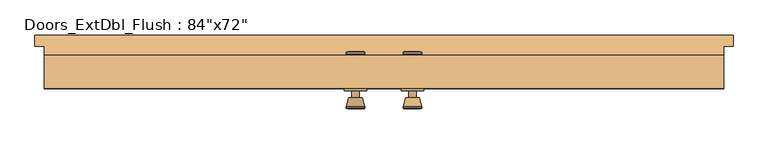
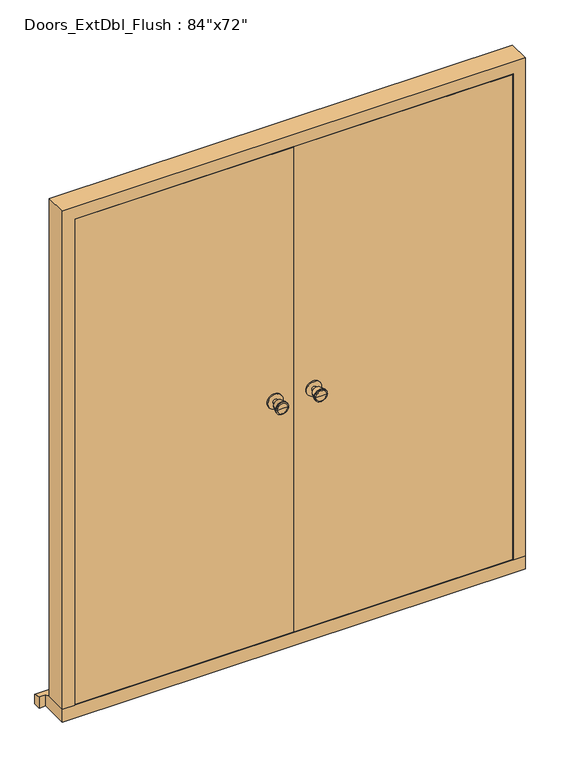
"""IFC4 building model written with IfcOpenShell, lengths in millimetres: door geometry."""

from ifc_helpers import new_model, si_unit, point, frame, frame_2d, origin, place, context, project, spatial, polyline, circle_curve, trimmed, segment, composite_curve, outline, extrude, faceted_brep, source, transform, mapped, element, save
from ifc_brep_helpers import plane_surface, cylinder_surface, revolved_surface, advanced_brep


def door_d81dae2e(model_context):
    return source(origin(), model_context, "Body", "SolidModel", [
        advanced_brep(
        [(-76.5, 5.0, 1050.0), (-66.5, 5.0, 1050.0), (-86.5, 5.0, 1050.0), (-96.9758676, -44.0, 1050.0), (-56.0241324, -44.0, 1050.0), (-76.5, -44.0, 1050.0), (-101.5, -42.1721319, 1050.0), (-51.5, -42.1721319, 1050.0), (-101.5, -38.7084537, 1050.0), (-51.5, -38.7084537, 1050.0), (-95.136236, -14.0, 1050.0), (-57.863764, -14.0, 1050.0), (-86.5, -14.0, 1050.0), (-66.5, -14.0, 1050.0)],
        [
            (0, 1),
            (1, 2, circle_curve(frame((-76.5, 5.0, 1050.0), z_axis=(0.0, 1.0, 0.0), x_axis=(1.0, 0.0, 0.0)), 10.0)),
            (2, 0),
            (2, 1, circle_curve(frame((-76.5, 5.0, 1050.0), z_axis=(0.0, 1.0, 0.0), x_axis=(1.0, 0.0, 0.0)), 10.0)),
            (3, 4, circle_curve(frame((-76.5, -44.0, 1050.0), z_axis=(0.0, -1.0, 0.0), x_axis=(1.0, 0.0, 0.0)), 20.4758676)),
            (4, 5),
            (5, 3),
            (4, 3, circle_curve(frame((-76.5, -44.0, 1050.0), z_axis=(0.0, -1.0, 0.0), x_axis=(1.0, 0.0, 0.0)), 20.4758676)),
            (6, 7, circle_curve(frame((-76.5, -42.1721319, 1050.0), z_axis=(0.0, -1.0, 0.0), x_axis=(1.0, 0.0, 0.0)), 25.0)),
            (7, 4),
            (3, 6),
            (7, 6, circle_curve(frame((-76.5, -42.1721319, 1050.0), z_axis=(0.0, -1.0, 0.0), x_axis=(1.0, 0.0, 0.0)), 25.0)),
            (8, 9, circle_curve(frame((-76.5, -38.7084537, 1050.0), z_axis=(0.0, -1.0, 0.0), x_axis=(1.0, 0.0, 0.0)), 25.0)),
            (9, 7),
            (6, 8),
            (9, 8, circle_curve(frame((-76.5, -38.7084537, 1050.0), z_axis=(0.0, -1.0, 0.0), x_axis=(1.0, 0.0, 0.0)), 25.0)),
            (10, 11, circle_curve(frame((-76.5, -14.0, 1050.0), z_axis=(0.0, -1.0, 0.0), x_axis=(1.0, 0.0, 0.0)), 18.636236)),
            (11, 9),
            (8, 10),
            (11, 10, circle_curve(frame((-76.5, -14.0, 1050.0), z_axis=(0.0, -1.0, 0.0), x_axis=(1.0, 0.0, 0.0)), 18.636236)),
            (12, 13, circle_curve(frame((-76.5, -14.0, 1050.0), z_axis=(0.0, -1.0, 0.0), x_axis=(1.0, 0.0, 0.0)), 10.0)),
            (13, 11),
            (10, 12),
            (13, 12, circle_curve(frame((-76.5, -14.0, 1050.0), z_axis=(0.0, -1.0, 0.0), x_axis=(1.0, 0.0, 0.0)), 10.0)),
            (1, 13),
            (12, 2),
        ],
        [
            plane_surface(frame((-76.5, 5.0, 1050.0), z_axis=(0.0, 1.0, 0.0), x_axis=(1.0, 0.0, 0.0))),
            plane_surface(frame((-76.5, -44.0, 1050.0), z_axis=(0.0, -1.0, 0.0), x_axis=(1.0, 0.0, 0.0))),
            revolved_surface(polyline([(-56.0241324, -44.0, 1050.0), (-51.5, -42.1721319, 1050.0)]), (-76.5, 5.0, 1050.0), (0.0, 1.0, 0.0)),
            cylinder_surface(frame((-76.5, 5.0, 1050.0), z_axis=(0.0, 1.0, 0.0), x_axis=(1.0, 0.0, 0.0)), 25.0),
            revolved_surface(polyline([(-51.5, -38.7084537, 1050.0), (-57.863764, -14.0, 1050.0)]), (-76.5, 5.0, 1050.0), (0.0, 1.0, 0.0)),
            plane_surface(frame((-76.5, -14.0, 1050.0), z_axis=(0.0, 1.0, 0.0), x_axis=(1.0, 0.0, 0.0))),
            cylinder_surface(frame((-76.5, 5.0, 1050.0), z_axis=(0.0, 1.0, 0.0), x_axis=(1.0, 0.0, 0.0)), 10.0),
        ],
        [
            (0, [[1, 2, 3]]),
            (0, [[-3, 4, -1]]),
            (1, [[5, 6, 7]]),
            (1, [[8, -7, -6]]),
            (2, [[9, 10, -5, 11]]),
            (2, [[12, -11, -8, -10]]),
            (3, [[13, 14, -9, 15]]),
            (3, [[16, -15, -12, -14]]),
            (4, [[17, 18, -13, 19]]),
            (4, [[20, -19, -16, -18]]),
            (5, [[21, 22, -17, 23]]),
            (5, [[24, -23, -20, -22]]),
            (6, [[-2, 25, -21, 26]]),
            (6, [[-4, -26, -24, -25]]),
        ],
    ),
        extrude(outline(composite_curve([segment(trimmed(circle_curve(frame_2d((1050.0, -76.5)), 30.0), [point((1050.0, -46.5))], [point((1050.0, -106.5))], False, "CARTESIAN"), True, "CONTINUOUS"), segment(trimmed(circle_curve(frame_2d((1050.0, -76.5)), 30.0), [point((1050.0, -106.5))], [point((1050.0, -46.5))], False, "CARTESIAN"), True, "CONTINUOUS")], self_intersect=False)), frame((0.0, 5.0, 0.0), z_axis=(0.0, 1.0, 0.0), x_axis=(0.0, 0.0, 1.0)), (0.0, 0.0, 1.0), 6.0),
        advanced_brep(
        [(-76.5, 61.0, 1050.0), (-86.5, 61.0, 1050.0), (-66.5, 61.0, 1050.0), (-96.9758676, 110.0, 1050.0), (-76.5, 110.0, 1050.0), (-56.0241324, 110.0, 1050.0), (-101.5, 108.1721319, 1050.0), (-51.5, 108.1721319, 1050.0), (-101.5, 104.7084537, 1050.0), (-51.5, 104.7084537, 1050.0), (-95.136236, 80.0, 1050.0), (-57.863764, 80.0, 1050.0), (-86.5, 80.0, 1050.0), (-66.5, 80.0, 1050.0)],
        [
            (0, 1),
            (1, 2, circle_curve(frame((-76.5, 61.0, 1050.0), z_axis=(0.0, -1.0, 0.0), x_axis=(1.0, 0.0, 0.0)), 10.0)),
            (2, 0),
            (2, 1, circle_curve(frame((-76.5, 61.0, 1050.0), z_axis=(0.0, -1.0, 0.0), x_axis=(1.0, 0.0, 0.0)), 10.0)),
            (3, 4),
            (4, 5),
            (5, 3, circle_curve(frame((-76.5, 110.0, 1050.0), z_axis=(0.0, 1.0, 0.0), x_axis=(1.0, 0.0, 0.0)), 20.4758676)),
            (3, 5, circle_curve(frame((-76.5, 110.0, 1050.0), z_axis=(0.0, 1.0, 0.0), x_axis=(1.0, 0.0, 0.0)), 20.4758676)),
            (6, 3),
            (5, 7),
            (7, 6, circle_curve(frame((-76.5, 108.1721319, 1050.0), z_axis=(0.0, 1.0, 0.0), x_axis=(1.0, 0.0, 0.0)), 25.0)),
            (6, 7, circle_curve(frame((-76.5, 108.1721319, 1050.0), z_axis=(0.0, 1.0, 0.0), x_axis=(1.0, 0.0, 0.0)), 25.0)),
            (8, 6),
            (7, 9),
            (9, 8, circle_curve(frame((-76.5, 104.7084537, 1050.0), z_axis=(0.0, 1.0, 0.0), x_axis=(1.0, 0.0, 0.0)), 25.0)),
            (8, 9, circle_curve(frame((-76.5, 104.7084537, 1050.0), z_axis=(0.0, 1.0, 0.0), x_axis=(1.0, 0.0, 0.0)), 25.0)),
            (10, 8),
            (9, 11),
            (11, 10, circle_curve(frame((-76.5, 80.0, 1050.0), z_axis=(0.0, 1.0, 0.0), x_axis=(1.0, 0.0, 0.0)), 18.636236)),
            (10, 11, circle_curve(frame((-76.5, 80.0, 1050.0), z_axis=(0.0, 1.0, 0.0), x_axis=(1.0, 0.0, 0.0)), 18.636236)),
            (12, 10),
            (11, 13),
            (13, 12, circle_curve(frame((-76.5, 80.0, 1050.0), z_axis=(0.0, 1.0, 0.0), x_axis=(1.0, 0.0, 0.0)), 10.0)),
            (12, 13, circle_curve(frame((-76.5, 80.0, 1050.0), z_axis=(0.0, 1.0, 0.0), x_axis=(1.0, 0.0, 0.0)), 10.0)),
            (1, 12),
            (13, 2),
        ],
        [
            plane_surface(frame((-76.5, 61.0, 1050.0), z_axis=(0.0, -1.0, 0.0), x_axis=(1.0, 0.0, 0.0))),
            plane_surface(frame((-76.5, 110.0, 1050.0), z_axis=(0.0, 1.0, 0.0), x_axis=(1.0, 0.0, 0.0))),
            revolved_surface(polyline([(-56.0241324, 110.0, 1050.0), (-51.5, 108.1721319, 1050.0)]), (-76.5, 61.0, 1050.0), (0.0, -1.0, 0.0)),
            cylinder_surface(frame((-76.5, 61.0, 1050.0), z_axis=(0.0, -1.0, 0.0), x_axis=(1.0, 0.0, 0.0)), 25.0),
            revolved_surface(polyline([(-51.5, 104.7084537, 1050.0), (-57.863764, 80.0, 1050.0)]), (-76.5, 61.0, 1050.0), (0.0, -1.0, 0.0)),
            plane_surface(frame((-76.5, 80.0, 1050.0), z_axis=(0.0, -1.0, 0.0), x_axis=(1.0, 0.0, 0.0))),
            cylinder_surface(frame((-76.5, 61.0, 1050.0), z_axis=(0.0, -1.0, 0.0), x_axis=(1.0, 0.0, 0.0)), 10.0),
        ],
        [
            (0, [[1, 2, 3]]),
            (0, [[-3, 4, -1]]),
            (1, [[5, 6, 7]]),
            (1, [[-6, -5, 8]]),
            (2, [[9, -7, 10, 11]]),
            (2, [[-10, -8, -9, 12]]),
            (3, [[13, -11, 14, 15]]),
            (3, [[-14, -12, -13, 16]]),
            (4, [[17, -15, 18, 19]]),
            (4, [[-18, -16, -17, 20]]),
            (5, [[21, -19, 22, 23]]),
            (5, [[-22, -20, -21, 24]]),
            (6, [[25, -23, 26, -2]]),
            (6, [[-26, -24, -25, -4]]),
        ],
    ),
        extrude(outline(composite_curve([segment(trimmed(circle_curve(frame_2d((1050.0, -76.5)), 30.0), [point((1050.0, -46.5))], [point((1050.0, -106.5))], False, "CARTESIAN"), True, "CONTINUOUS"), segment(trimmed(circle_curve(frame_2d((1050.0, -76.5)), 30.0), [point((1050.0, -106.5))], [point((1050.0, -46.5))], False, "CARTESIAN"), True, "CONTINUOUS")], self_intersect=False)), frame((0.0, 55.0, 0.0), z_axis=(0.0, 1.0, 0.0), x_axis=(0.0, 0.0, 1.0)), (0.0, 0.0, 1.0), 6.0),
        advanced_brep(
        [(76.5, 5.0, 1050.0), (86.5, 5.0, 1050.0), (66.5, 5.0, 1050.0), (96.9758676, -44.0, 1050.0), (76.5, -44.0, 1050.0), (56.0241324, -44.0, 1050.0), (101.5, -42.1721319, 1050.0), (51.5, -42.1721319, 1050.0), (101.5, -38.7084537, 1050.0), (51.5, -38.7084537, 1050.0), (95.136236, -14.0, 1050.0), (57.863764, -14.0, 1050.0), (86.5, -14.0, 1050.0), (66.5, -14.0, 1050.0)],
        [
            (0, 1),
            (1, 2, circle_curve(frame((76.5, 5.0, 1050.0), z_axis=(0.0, 1.0, 0.0), x_axis=(-1.0, 0.0, 0.0)), 10.0)),
            (2, 0),
            (2, 1, circle_curve(frame((76.5, 5.0, 1050.0), z_axis=(0.0, 1.0, 0.0), x_axis=(-1.0, 0.0, 0.0)), 10.0)),
            (3, 4),
            (4, 5),
            (5, 3, circle_curve(frame((76.5, -44.0, 1050.0), z_axis=(0.0, -1.0, 0.0), x_axis=(-1.0, 0.0, 0.0)), 20.4758676)),
            (3, 5, circle_curve(frame((76.5, -44.0, 1050.0), z_axis=(0.0, -1.0, 0.0), x_axis=(-1.0, 0.0, 0.0)), 20.4758676)),
            (6, 3),
            (5, 7),
            (7, 6, circle_curve(frame((76.5, -42.1721319, 1050.0), z_axis=(0.0, -1.0, 0.0), x_axis=(-1.0, 0.0, 0.0)), 25.0)),
            (6, 7, circle_curve(frame((76.5, -42.1721319, 1050.0), z_axis=(0.0, -1.0, 0.0), x_axis=(-1.0, 0.0, 0.0)), 25.0)),
            (8, 6),
            (7, 9),
            (9, 8, circle_curve(frame((76.5, -38.7084537, 1050.0), z_axis=(0.0, -1.0, 0.0), x_axis=(-1.0, 0.0, 0.0)), 25.0)),
            (8, 9, circle_curve(frame((76.5, -38.7084537, 1050.0), z_axis=(0.0, -1.0, 0.0), x_axis=(-1.0, 0.0, 0.0)), 25.0)),
            (10, 8),
            (9, 11),
            (11, 10, circle_curve(frame((76.5, -14.0, 1050.0), z_axis=(0.0, -1.0, 0.0), x_axis=(-1.0, 0.0, 0.0)), 18.636236)),
            (10, 11, circle_curve(frame((76.5, -14.0, 1050.0), z_axis=(0.0, -1.0, 0.0), x_axis=(-1.0, 0.0, 0.0)), 18.636236)),
            (12, 10),
            (11, 13),
            (13, 12, circle_curve(frame((76.5, -14.0, 1050.0), z_axis=(0.0, -1.0, 0.0), x_axis=(-1.0, 0.0, 0.0)), 10.0)),
            (12, 13, circle_curve(frame((76.5, -14.0, 1050.0), z_axis=(0.0, -1.0, 0.0), x_axis=(-1.0, 0.0, 0.0)), 10.0)),
            (1, 12),
            (13, 2),
        ],
        [
            plane_surface(frame((76.5, 5.0, 1050.0), z_axis=(0.0, 1.0, 0.0), x_axis=(-1.0, 0.0, 0.0))),
            plane_surface(frame((76.5, -44.0, 1050.0), z_axis=(0.0, -1.0, 0.0), x_axis=(-1.0, 0.0, 0.0))),
            revolved_surface(polyline([(56.0241324, -44.0, 1050.0), (51.5, -42.1721319, 1050.0)]), (76.5, 5.0, 1050.0), (0.0, 1.0, 0.0)),
            cylinder_surface(frame((76.5, 5.0, 1050.0), z_axis=(0.0, 1.0, 0.0), x_axis=(-1.0, 0.0, 0.0)), 25.0),
            revolved_surface(polyline([(51.5, -38.7084537, 1050.0), (57.863764, -14.0, 1050.0)]), (76.5, 5.0, 1050.0), (0.0, 1.0, 0.0)),
            plane_surface(frame((76.5, -14.0, 1050.0), z_axis=(0.0, 1.0, 0.0), x_axis=(-1.0, 0.0, 0.0))),
            cylinder_surface(frame((76.5, 5.0, 1050.0), z_axis=(0.0, 1.0, 0.0), x_axis=(-1.0, 0.0, 0.0)), 10.0),
        ],
        [
            (0, [[1, 2, 3]]),
            (0, [[-3, 4, -1]]),
            (1, [[5, 6, 7]]),
            (1, [[-6, -5, 8]]),
            (2, [[9, -7, 10, 11]]),
            (2, [[-10, -8, -9, 12]]),
            (3, [[13, -11, 14, 15]]),
            (3, [[-14, -12, -13, 16]]),
            (4, [[17, -15, 18, 19]]),
            (4, [[-18, -16, -17, 20]]),
            (5, [[21, -19, 22, 23]]),
            (5, [[-22, -20, -21, 24]]),
            (6, [[25, -23, 26, -2]]),
            (6, [[-26, -24, -25, -4]]),
        ],
    ),
        extrude(outline(composite_curve([segment(trimmed(circle_curve(frame_2d((1050.0, 76.5)), 30.0), [point((1050.0, 46.5))], [point((1050.0, 106.5))], False, "CARTESIAN"), True, "CONTINUOUS"), segment(trimmed(circle_curve(frame_2d((1050.0, 76.5)), 30.0), [point((1050.0, 106.5))], [point((1050.0, 46.5))], False, "CARTESIAN"), True, "CONTINUOUS")], self_intersect=False)), frame((0.0, 5.0, 0.0), z_axis=(0.0, 1.0, 0.0), x_axis=(0.0, 0.0, 1.0)), (0.0, 0.0, 1.0), 6.0),
        advanced_brep(
        [(76.5, 61.0, 1050.0), (66.5, 61.0, 1050.0), (86.5, 61.0, 1050.0), (96.9758676, 110.0, 1050.0), (56.0241324, 110.0, 1050.0), (76.5, 110.0, 1050.0), (101.5, 108.1721319, 1050.0), (51.5, 108.1721319, 1050.0), (101.5, 104.7084537, 1050.0), (51.5, 104.7084537, 1050.0), (95.136236, 80.0, 1050.0), (57.863764, 80.0, 1050.0), (86.5, 80.0, 1050.0), (66.5, 80.0, 1050.0)],
        [
            (0, 1),
            (1, 2, circle_curve(frame((76.5, 61.0, 1050.0), z_axis=(0.0, -1.0, 0.0), x_axis=(-1.0, 0.0, 0.0)), 10.0)),
            (2, 0),
            (2, 1, circle_curve(frame((76.5, 61.0, 1050.0), z_axis=(0.0, -1.0, 0.0), x_axis=(-1.0, 0.0, 0.0)), 10.0)),
            (3, 4, circle_curve(frame((76.5, 110.0, 1050.0), z_axis=(0.0, 1.0, 0.0), x_axis=(-1.0, 0.0, 0.0)), 20.4758676)),
            (4, 5),
            (5, 3),
            (4, 3, circle_curve(frame((76.5, 110.0, 1050.0), z_axis=(0.0, 1.0, 0.0), x_axis=(-1.0, 0.0, 0.0)), 20.4758676)),
            (6, 7, circle_curve(frame((76.5, 108.1721319, 1050.0), z_axis=(0.0, 1.0, 0.0), x_axis=(-1.0, 0.0, 0.0)), 25.0)),
            (7, 4),
            (3, 6),
            (7, 6, circle_curve(frame((76.5, 108.1721319, 1050.0), z_axis=(0.0, 1.0, 0.0), x_axis=(-1.0, 0.0, 0.0)), 25.0)),
            (8, 9, circle_curve(frame((76.5, 104.7084537, 1050.0), z_axis=(0.0, 1.0, 0.0), x_axis=(-1.0, 0.0, 0.0)), 25.0)),
            (9, 7),
            (6, 8),
            (9, 8, circle_curve(frame((76.5, 104.7084537, 1050.0), z_axis=(0.0, 1.0, 0.0), x_axis=(-1.0, 0.0, 0.0)), 25.0)),
            (10, 11, circle_curve(frame((76.5, 80.0, 1050.0), z_axis=(0.0, 1.0, 0.0), x_axis=(-1.0, 0.0, 0.0)), 18.636236)),
            (11, 9),
            (8, 10),
            (11, 10, circle_curve(frame((76.5, 80.0, 1050.0), z_axis=(0.0, 1.0, 0.0), x_axis=(-1.0, 0.0, 0.0)), 18.636236)),
            (12, 13, circle_curve(frame((76.5, 80.0, 1050.0), z_axis=(0.0, 1.0, 0.0), x_axis=(-1.0, 0.0, 0.0)), 10.0)),
            (13, 11),
            (10, 12),
            (13, 12, circle_curve(frame((76.5, 80.0, 1050.0), z_axis=(0.0, 1.0, 0.0), x_axis=(-1.0, 0.0, 0.0)), 10.0)),
            (1, 13),
            (12, 2),
        ],
        [
            plane_surface(frame((76.5, 61.0, 1050.0), z_axis=(0.0, -1.0, 0.0), x_axis=(-1.0, 0.0, 0.0))),
            plane_surface(frame((76.5, 110.0, 1050.0), z_axis=(0.0, 1.0, 0.0), x_axis=(-1.0, 0.0, 0.0))),
            revolved_surface(polyline([(56.0241324, 110.0, 1050.0), (51.5, 108.1721319, 1050.0)]), (76.5, 61.0, 1050.0), (0.0, -1.0, 0.0)),
            cylinder_surface(frame((76.5, 61.0, 1050.0), z_axis=(0.0, -1.0, 0.0), x_axis=(-1.0, 0.0, 0.0)), 25.0),
            revolved_surface(polyline([(51.5, 104.7084537, 1050.0), (57.863764, 80.0, 1050.0)]), (76.5, 61.0, 1050.0), (0.0, -1.0, 0.0)),
            plane_surface(frame((76.5, 80.0, 1050.0), z_axis=(0.0, -1.0, 0.0), x_axis=(-1.0, 0.0, 0.0))),
            cylinder_surface(frame((76.5, 61.0, 1050.0), z_axis=(0.0, -1.0, 0.0), x_axis=(-1.0, 0.0, 0.0)), 10.0),
        ],
        [
            (0, [[1, 2, 3]]),
            (0, [[-3, 4, -1]]),
            (1, [[5, 6, 7]]),
            (1, [[8, -7, -6]]),
            (2, [[9, 10, -5, 11]]),
            (2, [[12, -11, -8, -10]]),
            (3, [[13, 14, -9, 15]]),
            (3, [[16, -15, -12, -14]]),
            (4, [[17, 18, -13, 19]]),
            (4, [[20, -19, -16, -18]]),
            (5, [[21, 22, -17, 23]]),
            (5, [[24, -23, -20, -22]]),
            (6, [[-2, 25, -21, 26]]),
            (6, [[-4, -26, -24, -25]]),
        ],
    ),
        extrude(outline(composite_curve([segment(trimmed(circle_curve(frame_2d((1050.0, 76.5)), 30.0), [point((1050.0, 46.5))], [point((1050.0, 106.5))], False, "CARTESIAN"), True, "CONTINUOUS"), segment(trimmed(circle_curve(frame_2d((1050.0, 76.5)), 30.0), [point((1050.0, 106.5))], [point((1050.0, 46.5))], False, "CARTESIAN"), True, "CONTINUOUS")], self_intersect=False)), frame((0.0, 55.0, 0.0), z_axis=(0.0, 1.0, 0.0), x_axis=(0.0, 0.0, 1.0)), (0.0, 0.0, 1.0), 6.0),
        faceted_brep([(843.9, 100.0, 54.5), (914.4, 100.0, 54.5), (914.4, 11.0, 54.5), (865.9, 11.0, 54.5), (865.9, 58.0, 54.5), (843.9, 58.0, 54.5), (843.9, 100.0, 2063.1), (-843.9, 100.0, 2063.1), (-843.9, 100.0, 54.5), (-914.4, 100.0, 54.5), (-914.4, 100.0, 2133.6), (914.4, 100.0, 2133.6), (914.4, 11.0, 2133.6), (-914.4, 11.0, 2133.6), (-914.4, 11.0, 54.5), (-865.9, 11.0, 54.5), (-865.9, 11.0, 2085.1), (865.9, 11.0, 2085.1), (865.9, 58.0, 2085.1), (-865.9, 58.0, 2085.1), (-865.9, 58.0, 54.5), (-843.9, 58.0, 54.5), (-843.9, 58.0, 2063.1), (843.9, 58.0, 2063.1)], [[[0, 1, 2, 3, 4, 5]], [[1, 0, 6, 7, 8, 9, 10, 11]], [[2, 1, 11, 12]], [[3, 2, 12, 13, 14, 15, 16, 17]], [[4, 3, 17, 18]], [[5, 4, 18, 19, 20, 21, 22, 23]], [[0, 5, 23, 6]], [[12, 11, 10, 13]], [[18, 17, 16, 19]], [[6, 23, 22, 7]], [[8, 21, 20, 15, 14, 9]], [[13, 10, 9, 14]], [[19, 16, 15, 20]], [[7, 22, 21, 8]]]),
        faceted_brep([(939.4, 155.0, 0.0), (939.4, 155.0, 38.5947221), (939.4, 125.0, 47.2703282), (939.4, 125.0, 0.0), (-939.4, 155.0, 38.5947221), (-939.4, 155.0, 0.0), (-939.4, 125.0, 0.0), (-939.4, 125.0, 47.2703282), (914.4, 125.0, 0.0), (914.4, 11.0, 0.0), (-914.4, 11.0, 0.0), (-914.4, 125.0, 0.0), (-914.4, 125.0, 47.2703282), (-914.4, 100.0, 54.5), (914.4, 100.0, 54.5), (914.4, 125.0, 47.2703282), (-914.4, 11.0, 54.5), (914.4, 11.0, 54.5)], [[[0, 1, 2, 3]], [[4, 5, 6, 7]], [[5, 0, 3, 8, 9, 10, 11, 6]], [[1, 0, 5, 4]], [[1, 4, 7, 12, 13, 14, 15, 2]], [[13, 16, 17, 14]], [[16, 10, 9, 17]], [[12, 11, 10, 16, 13]], [[11, 12, 7, 6]], [[8, 15, 14, 17, 9]], [[15, 8, 3, 2]]]),
        extrude(outline(polyline([(862.9, 11.0), (1.5, 11.0), (1.5, 55.0), (862.9, 55.0), (862.9, 11.0)])), frame((0.0, 0.0, 58.5), z_axis=(0.0, 0.0, 1.0), x_axis=(1.0, 0.0, 0.0)), (0.0, 0.0, 1.0), 2023.6),
        extrude(outline(polyline([(-1.5, 11.0), (-862.9, 11.0), (-862.9, 55.0), (-1.5, 55.0), (-1.5, 11.0)])), frame((0.0, 0.0, 58.5), z_axis=(0.0, 0.0, 1.0), x_axis=(1.0, 0.0, 0.0)), (0.0, 0.0, 1.0), 2023.6),
    ])


if __name__ == "__main__":
    model = new_model("IFC4")
    model_context = context("Model", 3, world=origin())
    ifc_project = project(units=[si_unit("LENGTHUNIT", "METRE", prefix="MILLI")], contexts=[model_context])
    site = spatial("IfcSite", under=ifc_project)
    building = spatial("IfcBuilding", under=site)
    placement = place(None, origin())
    door_shape = door_d81dae2e(model_context)
    element("IfcDoor", 1, ObjectType="Doors_ExtDbl_Flush : 84\"x72\"", at=placement, inside=building, context=model_context, shape_type="MappedRepresentation", body=[
        mapped(door_shape, transform((0.0, 0.0, 0.0), x_axis=(1.0, 0.0, 0.0), y_axis=(0.0, 1.0, 0.0), z_axis=(0.0, 0.0, 1.0))),
    ])
    save(model, "model.ifc")
